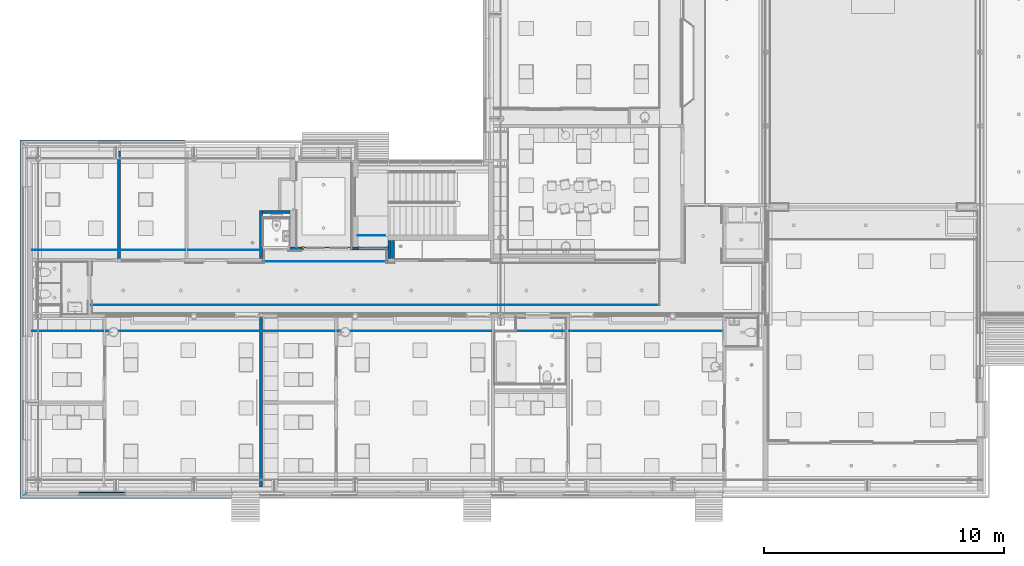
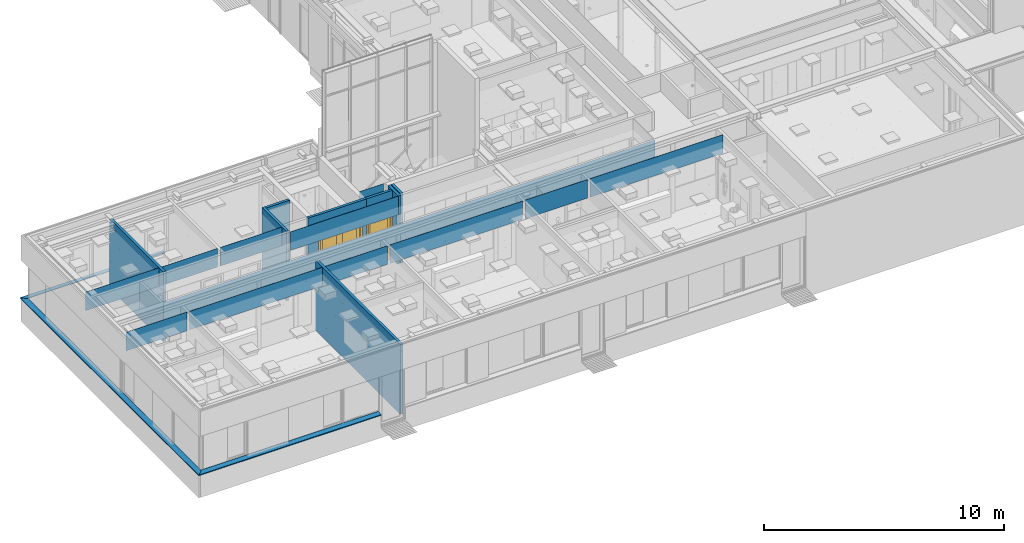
# One storey, part 68 of 347: 16 walls, 2 doors, 2 openings.
"""IFC2X3 building model written with IfcOpenShell, lengths in millimetres."""

from ifc_helpers import new_model, entity, si_unit, converted_unit, derived_unit, money_unit, direction, frame, origin_with_axes, place, context, subcontext, project, spatial, open_shell, faceted_brep, surface_model, material, type_object, element, fill, save


model = new_model("IFC2X3")

# Units and contexts
model_context = context("Model", 3, precision=0.01, world=origin_with_axes(), true_north=direction((0.0, 1.0)))
plan_context = context("Plan", 3, precision=0.01, world=origin_with_axes(), true_north=direction((0.0, 1.0)))
body_context = subcontext(model_context, "Body", "Model", "MODEL_VIEW")
ifc_project = project(units=[si_unit("LENGTHUNIT", "METRE", prefix="MILLI"), si_unit("AREAUNIT", "SQUARE_METRE"), si_unit("VOLUMEUNIT", "CUBIC_METRE"), converted_unit("PLANEANGLEUNIT", "DEGREE", entity("IfcPlaneAngleMeasure", 0.0174532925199), si_unit("PLANEANGLEUNIT", "RADIAN"), dimensions=[0, 0, 0, 0, 0, 0, 0]), money_unit("EUR"), converted_unit("TIMEUNIT", "Year", entity("IfcTimeMeasure", 31556926.0), si_unit("TIMEUNIT", "SECOND"), dimensions=[0, 0, 1, 0, 0, 0, 0]), si_unit("MASSUNIT", "GRAM", prefix="KILO"), si_unit("THERMODYNAMICTEMPERATUREUNIT", "DEGREE_CELSIUS"), si_unit("LUMINOUSINTENSITYUNIT", "LUMEN"), si_unit("ENERGYUNIT", "JOULE", prefix="MEGA"), derived_unit("THERMALCONDUCTANCEUNIT", [(si_unit("POWERUNIT", "WATT"), 1), (si_unit("LENGTHUNIT", "METRE"), -1), (si_unit("THERMODYNAMICTEMPERATUREUNIT", "KELVIN"), -1)]), derived_unit("SPECIFICHEATCAPACITYUNIT", [(si_unit("ENERGYUNIT", "JOULE"), 1), (si_unit("MASSUNIT", "GRAM", prefix="KILO"), -1), (si_unit("THERMODYNAMICTEMPERATUREUNIT", "KELVIN"), -1)]), derived_unit("MASSDENSITYUNIT", [(si_unit("MASSUNIT", "GRAM", prefix="KILO"), 1), (si_unit("VOLUMEUNIT", "CUBIC_METRE"), -1)])], contexts=[model_context, plan_context])

# Site, building, storey
site_placement = place(None, origin_with_axes())
site = spatial("IfcSite", under=ifc_project, at=site_placement, Name="Site", CompositionType="ELEMENT")
building_placement = place(site_placement, origin_with_axes())
building = spatial("IfcBuilding", under=site, at=building_placement, Name="Naam gebouw", CompositionType="ELEMENT")
storey_placement = place(building_placement, origin_with_axes())
storey = spatial("IfcBuildingStorey", under=building, at=storey_placement, Name="begane grond", CompositionType="ELEMENT", Elevation=0.0)

# Walls
ifc_material_1 = material(Name="ALG - LICHTE SCHEIDINGSWAND")
wall_type_1 = type_object("IfcWallType", Name="ALG LSW 125 125", PredefinedType="NOTDEFINED")
wall_1_placement = place(storey_placement, frame((14525.0, 12125.0, 0.0), z_axis=(0.0, 0.0, 1.0), x_axis=(0.0, -1.0, 0.0)))
element("IfcWall", 1, at=wall_1_placement, inside=storey, type_object=wall_type_1, material=ifc_material_1, Name="22_GF 125 ECO DGS/2.75.3A", context=body_context, shape_type="Brep", body=[
    faceted_brep([(62.5, 125.0, 2600.0), (625.00002799, 125.0, 2600.0), (625.00002799, 125.0, 2612.0), (62.5, 125.0, 2612.0), (62.5, 125.0, 3560.0), (7125.00000221, 125.0, 3560.0), (7125.00002799, 125.0, 3212.0), (6525.00002799, 125.0, 3212.0), (6525.00002799, 125.0, 3200.0), (7125.00002799, 125.0, 3200.0), (7125.00000221, 125.0, 0.0), (62.5, 125.0, 0.0), (625.00002799, 0.0, 2600.0), (62.5, 0.0, 2600.0), (625.00002799, 0.0, 2612.0), (62.5, 0.0, 2612.0), (62.5, 0.0, 3560.0), (7125.00000221, 0.0, 3560.0), (7125.00002799, 0.0, 3212.0), (6525.00002799, 0.0, 3212.0), (6525.00002799, 0.0, 3200.0), (7125.00002799, 0.0, 3200.0), (7125.00000221, 0.0, 0.0), (62.5, 0.0, 0.0)], [[[0, 1, 2, 3, 4, 5, 6, 7, 8, 9, 10, 11]], [[12, 1, 0, 13]], [[14, 2, 1, 12]], [[14, 15, 3, 2]], [[4, 3, 15, 16]], [[4, 16, 17, 5]], [[17, 18, 6, 5]], [[19, 7, 6, 18]], [[20, 8, 7, 19]], [[21, 9, 8, 20]], [[10, 9, 21, 22]], [[23, 11, 10, 22]], [[23, 13, 0, 11]], [[14, 12, 13, 23, 22, 21, 20, 19, 18, 17, 16, 15]]]),
])
wall_2_placement = place(storey_placement, frame((8600.0, 19000.0, 0.0), z_axis=(0.0, 0.0, 1.0), x_axis=(0.0, -1.0, 0.0)))
element("IfcWall", 2, at=wall_2_placement, inside=storey, type_object=wall_type_1, material=ifc_material_1, Name="22_GF 125 ECO DGS/2.75.3A", context=body_context, shape_type="Brep", body=[
    faceted_brep([(-2.21049489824e-06, 125.0, 0.0), (0.0, 125.0, 3200.0), (509.999855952, 125.0, 3200.0), (509.999855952, 125.0, 3212.0), (0.0, 125.0, 3212.0), (-2.21049134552e-06, 125.0, 3560.0), (4475.0, 125.0, 3560.0), (4475.0, 125.0, 2612.0), (4109.99990516, 125.0, 2612.0), (4109.99990516, 125.0, 2600.0), (4475.0, 125.0, 2600.0), (4475.0, 125.0, 0.0), (-2.21049489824e-06, 0.0, 0.0), (0.0, 0.0, 3200.0), (509.999855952, 0.0, 3200.0), (509.999855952, 0.0, 3212.0), (0.0, 0.0, 3212.0), (-2.21049134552e-06, 0.0, 3560.0), (4475.0, 0.0, 3560.0), (4475.0, 0.0, 2612.0), (4109.99990516, 0.0, 2612.0), (4109.99990516, 0.0, 2600.0), (4475.0, 0.0, 2600.0), (4475.0, 0.0, 0.0)], [[[0, 1, 2, 3, 4, 5, 6, 7, 8, 9, 10, 11]], [[0, 12, 13, 1]], [[13, 14, 2, 1]], [[14, 15, 3, 2]], [[3, 15, 16, 4]], [[17, 5, 4, 16]], [[17, 18, 6, 5]], [[6, 18, 19, 7]], [[19, 20, 8, 7]], [[20, 21, 9, 8]], [[21, 22, 10, 9]], [[23, 11, 10, 22]], [[0, 11, 23, 12]], [[16, 15, 14, 13, 12, 23, 22, 21, 20, 19, 18, 17]]]),
])

# Wall, opening, door
wall_3_placement = place(storey_placement, frame((19865.0, 14890.0, 0.0), z_axis=(0.0, 0.0, 1.0), x_axis=(-1.0, 0.0, 0.0)))
wall_3 = element("IfcWall", 3, at=wall_3_placement, inside=storey, type_object=wall_type_1, material=ifc_material_1, Name="22_GF 125 ECO DGS/2.75.3A", context=body_context, shape_type="Brep", body=[
    faceted_brep([(0.0, 0.0, 2600.0), (0.0, -125.0, 2600.0), (0.0, -125.0, 3560.0), (0.0, 0.0, 3560.0), (1250.0, -125.0, 2600.0), (1250.0, 0.0, 2600.0), (1250.0, -125.0, 3560.0), (1250.0, 0.0, 3560.0)], [[[0, 1, 2, 3]], [[4, 1, 0, 5]], [[1, 4, 6, 2]], [[2, 6, 7, 3]], [[5, 0, 3, 7]], [[4, 5, 7, 6]]]),
])
opening_1_placement = place(wall_3_placement, frame((625.0, 0.0, 0.0), z_axis=(0.0, 0.0, 1.0), x_axis=(1.0, 0.0, 0.0)))
opening_1 = element("IfcOpeningElement", 4, at=opening_1_placement, cuts=wall_3, Name="32_03.01", context=body_context, shape_type="Brep", body=[
    faceted_brep([(625.0, -257.0, 2600.0), (625.0, -257.0, 0.0), (625.0, 125.0, 0.0), (625.0, 125.0, 2600.0), (-625.0, -257.0, 2600.0), (-625.0, -257.0, 0.0), (-625.0, 125.0, 0.0), (-625.0, 125.0, 2600.0)], [[[0, 1, 2, 3]], [[0, 4, 5, 1]], [[1, 5, 6, 2]], [[3, 2, 6, 7]], [[4, 0, 3, 7]], [[5, 4, 7, 6]]]),
])
door_style_1 = type_object("IfcDoorStyle", Name="D1 25", ConstructionType="NOTDEFINED", OperationType="SINGLE_SWING_LEFT", ParameterTakesPrecedence=False, Sizeable=False)
door_1_placement = place(opening_1_placement, frame((625.0, 0.0, 0.0), z_axis=(0.0, 0.0, 1.0), x_axis=(-1.0, 0.0, 0.0)))
door_1 = element("IfcDoor", 5, at=door_1_placement, inside=storey, type_object=door_style_1, Name="32_03.01", ObjectType="DOOR", OverallHeight=2600.0, OverallWidth=1250.0, context=body_context, shape_type="SurfaceModel", body=[
    faceted_brep([(1160.0, 72.0, 0.0), (1160.0, -7.0, 0.0), (1160.0, -7.0, 2510.0), (1160.0, 72.0, 2510.0), (1185.0, 72.0, 0.0), (1185.0, 132.0, 0.0), (1250.0, 132.0, 0.0), (1250.0, -7.0, 0.0), (1250.0, -7.0, 2510.0), (1185.0, 72.0, 2510.0), (1250.0, 132.0, 2510.0), (1185.0, 132.0, 2510.0)], [[[0, 1, 2, 3]], [[4, 5, 6, 7, 1, 0]], [[1, 7, 8, 2]], [[9, 3, 2, 8, 10, 11]], [[9, 4, 0, 3]], [[11, 5, 4, 9]], [[11, 10, 6, 5]], [[6, 10, 8, 7]]]),
    faceted_brep([(65.0, 72.0, 2510.0), (65.0, 132.0, 2510.0), (0.0, 132.0, 2510.0), (0.0, -7.0, 2510.0), (90.0, -7.0, 2510.0), (90.0, 72.0, 2510.0), (65.0, 72.0, 0.0), (65.0, 132.0, 0.0), (0.0, 132.0, 0.0), (0.0, -7.0, 0.0), (90.0, -7.0, 0.0), (90.0, 72.0, 0.0)], [[[0, 1, 2, 3, 4, 5]], [[0, 6, 7, 1]], [[7, 8, 2, 1]], [[2, 8, 9, 3]], [[3, 9, 10, 4]], [[5, 4, 10, 11]], [[5, 11, 6, 0]], [[6, 11, 10, 9, 8, 7]]]),
    faceted_brep([(1185.0, 132.0, 2535.0), (65.0, 132.0, 2535.0), (65.0, 132.0, 2510.0), (0.0, 132.0, 2510.0), (0.0, 132.0, 2600.0), (1250.0, 132.0, 2600.0), (1250.0, 132.0, 2510.0), (1185.0, 132.0, 2510.0), (1185.0, 72.0, 2535.0), (65.0, 72.0, 2535.0), (65.0, 72.0, 2510.0), (90.0, 72.0, 2510.0), (90.0, -7.0, 2510.0), (0.0, -7.0, 2510.0), (0.0, -7.0, 2600.0), (1250.0, -7.0, 2600.0), (1250.0, -7.0, 2510.0), (1185.0, 72.0, 2510.0), (1160.0, -7.0, 2510.0), (1160.0, 72.0, 2510.0)], [[[0, 1, 2, 3, 4, 5, 6, 7]], [[0, 8, 9, 1]], [[1, 9, 10, 2]], [[10, 11, 12, 13, 3, 2]], [[4, 3, 13, 14]], [[5, 4, 14, 15]], [[6, 5, 15, 16]], [[17, 7, 6, 16, 18, 19]], [[7, 17, 8, 0]], [[10, 9, 8, 17, 19, 11]], [[19, 18, 12, 11]], [[12, 18, 16, 15, 14, 13]]]),
    faceted_brep([(65.0, 126.0, 400.0), (205.0, 126.0, 400.0), (205.0, 72.0, 400.0), (65.0, 72.0, 400.0), (65.0, 126.0, 2395.0), (205.0, 126.0, 2395.0), (205.0, 72.0, 2395.0), (65.0, 72.0, 2395.0)], [[[0, 1, 2, 3]], [[0, 4, 5, 1]], [[1, 5, 6, 2]], [[3, 2, 6, 7]], [[4, 0, 3, 7]], [[5, 4, 7, 6]]]),
    faceted_brep([(1185.0, 126.0, 400.0), (1185.0, 126.0, 2395.0), (1185.0, 72.0, 2395.0), (1185.0, 72.0, 400.0), (1045.0, 126.0, 400.0), (1045.0, 126.0, 2395.0), (1045.0, 72.0, 2395.0), (1045.0, 72.0, 400.0)], [[[0, 1, 2, 3]], [[0, 4, 5, 1]], [[1, 5, 6, 2]], [[3, 2, 6, 7]], [[4, 0, 3, 7]], [[5, 4, 7, 6]]]),
    faceted_brep([(65.0, 126.0, 0.0), (1185.0, 126.0, 0.0), (1185.0, 72.0, 0.0), (65.0, 72.0, 0.0), (65.0, 126.0, 400.0), (205.0, 126.0, 400.0), (1045.0, 126.0, 400.0), (1185.0, 126.0, 400.0), (1185.0, 72.0, 400.0), (1045.0, 72.0, 400.0), (205.0, 72.0, 400.0), (65.0, 72.0, 400.0)], [[[0, 1, 2, 3]], [[0, 4, 5, 6, 7, 1]], [[1, 7, 8, 2]], [[3, 2, 8, 9, 10, 11]], [[4, 0, 3, 11]], [[5, 4, 11, 10]], [[6, 5, 10, 9]], [[7, 6, 9, 8]]]),
    faceted_brep([(65.0, 126.0, 2535.0), (65.0, 126.0, 2395.0), (65.0, 72.0, 2395.0), (65.0, 72.0, 2535.0), (1185.0, 126.0, 2535.0), (1185.0, 126.0, 2395.0), (1045.0, 126.0, 2395.0), (205.0, 126.0, 2395.0), (205.0, 72.0, 2395.0), (1045.0, 72.0, 2395.0), (1185.0, 72.0, 2395.0), (1185.0, 72.0, 2535.0)], [[[0, 1, 2, 3]], [[0, 4, 5, 6, 7, 1]], [[1, 7, 8, 2]], [[3, 2, 8, 9, 10, 11]], [[4, 0, 3, 11]], [[5, 4, 11, 10]], [[6, 5, 10, 9]], [[7, 6, 9, 8]]]),
    surface_model("IfcShellBasedSurfaceModel", [(205.0, 105.0, 400.0), (205.0, 105.0, 2395.0), (1045.0, 105.0, 2395.0), (1045.0, 105.0, 400.0)], [open_shell([[[0, 1, 2, 3]]])]),
    surface_model("IfcShellBasedSurfaceModel", [(205.0, 93.0, 400.0), (1045.0, 93.0, 400.0), (1045.0, 93.0, 2395.0), (205.0, 93.0, 2395.0)], [open_shell([[[0, 1, 2, 3]]])]),
])
fill(opening_1, door_1)

# Walls
wall_4_placement = place(storey_placement, frame((14650.0, 16415.0, 0.0), z_axis=(0.0, 0.0, 1.0), x_axis=(0.0, -1.0, 0.0)))
element("IfcWall", 6, at=wall_4_placement, inside=storey, type_object=wall_type_1, material=ifc_material_1, Name="22_GF 125 ECO DGS/2.75.4A", context=body_context, shape_type="Brep", body=[
    faceted_brep([(1524.99990516, 0.0, 2612.0), (1524.99990516, 0.0, 2600.0), (1890.0, 0.0, 2600.0), (1890.0, 0.0, 0.0), (-125.0, 0.0, 0.0), (-125.0, 0.0, 3560.0), (1890.0, 0.0, 3560.0), (1890.0, 0.0, 2612.0), (1524.99990516, -125.0, 2600.0), (1524.99990516, -125.0, 2612.0), (1890.0, -125.0, 2600.0), (1890.0, -125.0, 0.0), (-125.0, -125.0, 0.0), (-125.0, -125.0, 3560.0), (1890.0, -125.0, 3560.0), (1890.0, -125.0, 2612.0)], [[[0, 1, 2, 3, 4, 5, 6, 7]], [[8, 1, 0, 9]], [[10, 2, 1, 8]], [[3, 2, 10, 11]], [[12, 4, 3, 11]], [[4, 12, 13, 5]], [[5, 13, 14, 6]], [[14, 15, 7, 6]], [[9, 0, 7, 15]], [[8, 9, 15, 14, 13, 12, 11, 10]]]),
])
wall_5_placement = place(storey_placement, frame((15795.0, 16415.0, 0.0), z_axis=(0.0, 0.0, 1.0), x_axis=(-1.0, 0.0, 0.0)))
element("IfcWall", 7, at=wall_5_placement, inside=storey, type_object=wall_type_1, material=ifc_material_1, Name="22_GF 125 ECO DGS/2.75.4A", context=body_context, shape_type="Brep", body=[
    faceted_brep([(1145.0, 0.0, 0.0), (1145.0, -125.0, 0.0), (0.0, -125.0, 0.0), (0.0, 0.0, 0.0), (1145.0, 0.0, 3560.0), (1145.0, -125.0, 3560.0), (0.0, -125.0, 3560.0), (0.0, 0.0, 3560.0)], [[[0, 1, 2, 3]], [[1, 0, 4, 5]], [[1, 5, 6, 2]], [[7, 3, 2, 6]], [[4, 0, 3, 7]], [[5, 4, 7, 6]]]),
])
wall_6_placement = place(storey_placement, frame((19865.0, 14400.0, 0.0), z_axis=(0.0, 0.0, 1.0), x_axis=(0.0, 1.0, 0.0)))
element("IfcWall", 8, at=wall_6_placement, inside=storey, type_object=wall_type_1, material=ifc_material_1, Name="22_GF 125 ECO DGS/2.75.2A", context=body_context, shape_type="Brep", body=[
    faceted_brep([(890.0, 0.0, 0.0), (890.0, 0.0, 2600.0), (890.0, -40.0, 2600.0), (890.0, -40.0, 2612.0), (890.0, 0.0, 2612.0), (890.0, 0.0, 3560.0), (890.0, -125.0, 3560.0), (890.0, -125.0, 0.0), (615.0, 0.0, 2612.0), (615.0, 0.0, 2600.0), (125.0, 0.0, 0.0), (125.0, 0.0, 2600.0), (490.000094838, 0.0, 2600.0), (490.000094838, 0.0, 2612.0), (0.0, 0.0, 2612.0), (0.0, 0.0, 3560.0), (615.0, -40.0, 2600.0), (615.0, -40.0, 2612.0), (0.0, -125.0, 3560.0), (125.0, -125.0, 0.0), (0.0, -125.0, 2600.0), (125.0, -125.0, 2600.0), (125.0, -40.0, 2600.0), (490.000094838, -40.0, 2600.0), (490.000094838, -40.0, 2612.0), (0.0, -40.0, 2612.0), (0.0, -40.0, 2600.0)], [[[0, 1, 2, 3, 4, 5, 6, 7]], [[8, 9, 1, 0, 10, 11, 12, 13, 14, 15, 5, 4]], [[16, 2, 1, 9]], [[17, 3, 2, 16]], [[8, 4, 3, 17]], [[15, 18, 6, 5]], [[19, 7, 6, 18, 20, 21]], [[19, 10, 0, 7]], [[16, 9, 8, 17]], [[21, 22, 11, 10, 19]], [[12, 11, 22, 23]], [[24, 13, 12, 23]], [[24, 25, 14, 13]], [[14, 25, 26, 20, 18, 15]], [[20, 26, 22, 21]], [[23, 22, 26, 25, 24]]]),
])

# Wall, opening, door
wall_7_placement = place(storey_placement, frame((18615.0, 14890.0, 0.0), z_axis=(0.0, 0.0, 1.0), x_axis=(-1.0, 0.0, 0.0)))
wall_7 = element("IfcWall", 9, at=wall_7_placement, inside=storey, type_object=wall_type_1, material=ifc_material_1, Name="22_GF 125 ECO DGS/2.75.3A", context=body_context, shape_type="Brep", body=[
    faceted_brep([(2329.99994747, -125.0, 2600.0), (2329.99994747, -125.0, 0.0), (2820.0, -125.0, 0.0), (2820.0, -125.0, 3560.0), (0.0, -125.0, 3560.0), (0.0, -125.0, 0.0), (210.0, -125.0, 0.0), (210.0, -125.0, 2600.0), (2329.99994747, 0.0, 2600.0), (2329.99994747, 0.0, 0.0), (2820.0, 0.0, 0.0), (2820.0, 0.0, 3560.0), (0.0, 0.0, 3560.0), (0.0, 0.0, 0.0), (210.0, 0.0, 0.0), (210.0, 0.0, 2600.0)], [[[0, 1, 2, 3, 4, 5, 6, 7]], [[1, 0, 8, 9]], [[1, 9, 10, 2]], [[2, 10, 11, 3]], [[4, 3, 11, 12]], [[12, 13, 5, 4]], [[14, 6, 5, 13]], [[7, 6, 14, 15]], [[0, 7, 15, 8]], [[15, 14, 13, 12, 11, 10, 9, 8]]]),
])
opening_2_placement = place(wall_7_placement, frame((1269.99997374, 0.0, 0.0), z_axis=(0.0, 0.0, 1.0), x_axis=(1.0, 0.0, 0.0)))
opening_2 = element("IfcOpeningElement", 10, at=opening_2_placement, cuts=wall_7, Name="32_05.02", context=body_context, shape_type="Brep", body=[
    faceted_brep([(-1059.99997374, -125.0, 0.0), (-1059.99997374, -125.0, 2600.0), (-1059.99997374, 257.0, 2600.0), (-1059.99997374, 257.0, 0.0), (1059.99997374, -125.0, 0.0), (1059.99997374, -125.0, 2600.0), (1059.99997374, 257.0, 2600.0), (1059.99997374, 257.0, 0.0)], [[[0, 1, 2, 3]], [[0, 4, 5, 1]], [[1, 5, 6, 2]], [[3, 2, 6, 7]], [[4, 0, 3, 7]], [[5, 4, 7, 6]]]),
])
door_style_2 = type_object("IfcDoorStyle", Name="D2 25", ConstructionType="NOTDEFINED", OperationType="DOUBLE_DOOR_SINGLE_SWING", ParameterTakesPrecedence=False, Sizeable=False)
door_2_placement = place(opening_2_placement, frame((1059.99997374, 0.0, 0.0), z_axis=(0.0, 0.0, 1.0), x_axis=(-1.0, 0.0, 0.0)))
door_2 = element("IfcDoor", 11, at=door_2_placement, inside=storey, type_object=door_style_2, Name="32_05.02", ObjectType="DOOR", OverallHeight=2600.0, OverallWidth=2120.0, context=body_context, shape_type="SurfaceModel", body=[
    faceted_brep([(0.0, 132.0, 0.0), (90.0, 132.0, 0.0), (90.0, -7.0, 0.0), (0.0, -7.0, 0.0), (0.0, 132.0, 2510.0), (90.0, 132.0, 2510.0), (90.0, -7.0, 2510.0), (0.0, -7.0, 2510.0)], [[[0, 1, 2, 3]], [[0, 4, 5, 1]], [[1, 5, 6, 2]], [[3, 2, 6, 7]], [[4, 0, 3, 7]], [[5, 4, 7, 6]]]),
    faceted_brep([(2119.99994747, 132.0, 0.0), (2119.99994747, 132.0, 2510.0), (2119.99994747, -7.0, 2510.0), (2119.99994747, -7.0, 0.0), (2029.99994747, 132.0, 0.0), (2029.99994747, 132.0, 2510.0), (2029.99994747, -7.0, 2510.0), (2029.99994747, -7.0, 0.0)], [[[0, 1, 2, 3]], [[0, 4, 5, 1]], [[1, 5, 6, 2]], [[3, 2, 6, 7]], [[4, 0, 3, 7]], [[5, 4, 7, 6]]]),
    faceted_brep([(0.0, 132.0, 2600.0), (0.0, 132.0, 2510.0), (0.0, -7.0, 2510.0), (0.0, -7.0, 2600.0), (2119.99994747, 132.0, 2600.0), (2119.99994747, 132.0, 2510.0), (2029.99994747, 132.0, 2510.0), (90.0, 132.0, 2510.0), (90.0, -7.0, 2510.0), (2029.99994747, -7.0, 2510.0), (2119.99994747, -7.0, 2510.0), (2119.99994747, -7.0, 2600.0)], [[[0, 1, 2, 3]], [[0, 4, 5, 6, 7, 1]], [[1, 7, 8, 2]], [[3, 2, 8, 9, 10, 11]], [[4, 0, 3, 11]], [[5, 4, 11, 10]], [[6, 5, 10, 9]], [[7, 6, 9, 8]]]),
    faceted_brep([(2029.99994747, 126.0, 400.0), (2029.99994747, 72.0, 400.0), (1889.99994747, 72.0, 400.0), (1889.99994747, 126.0, 400.0), (2029.99994747, 126.0, 2370.0), (2029.99994747, 72.0, 2370.0), (1889.99994747, 72.0, 2370.0), (1889.99994747, 126.0, 2370.0)], [[[0, 1, 2, 3]], [[4, 5, 1, 0]], [[1, 5, 6, 2]], [[3, 2, 6, 7]], [[0, 3, 7, 4]], [[7, 6, 5, 4]]]),
    faceted_brep([(1059.99997374, 126.0, 400.0), (1059.99997374, 72.0, 400.0), (1059.99997374, 72.0, 2370.0), (1059.99997374, 126.0, 2370.0), (1199.99997374, 126.0, 400.0), (1199.99997374, 72.0, 400.0), (1199.99997374, 72.0, 2370.0), (1199.99997374, 126.0, 2370.0)], [[[0, 1, 2, 3]], [[4, 5, 1, 0]], [[1, 5, 6, 2]], [[3, 2, 6, 7]], [[0, 3, 7, 4]], [[7, 6, 5, 4]]]),
    faceted_brep([(2029.99994747, 126.0, 0.0), (2029.99994747, 72.0, 0.0), (1059.99997374, 72.0, 0.0), (1059.99997374, 126.0, 0.0), (2029.99994747, 126.0, 400.0), (2029.99994747, 72.0, 400.0), (1889.99994747, 72.0, 400.0), (1199.99997374, 72.0, 400.0), (1059.99997374, 72.0, 400.0), (1059.99997374, 126.0, 400.0), (1199.99997374, 126.0, 400.0), (1889.99994747, 126.0, 400.0)], [[[0, 1, 2, 3]], [[4, 5, 1, 0]], [[1, 5, 6, 7, 8, 2]], [[3, 2, 8, 9]], [[0, 3, 9, 10, 11, 4]], [[11, 6, 5, 4]], [[10, 7, 6, 11]], [[9, 8, 7, 10]]]),
    faceted_brep([(2029.99994747, 126.0, 2510.0), (2029.99994747, 72.0, 2510.0), (2029.99994747, 72.0, 2370.0), (2029.99994747, 126.0, 2370.0), (1059.99997374, 126.0, 2510.0), (1059.99997374, 72.0, 2510.0), (1059.99997374, 72.0, 2370.0), (1199.99997374, 72.0, 2370.0), (1889.99994747, 72.0, 2370.0), (1889.99994747, 126.0, 2370.0), (1199.99997374, 126.0, 2370.0), (1059.99997374, 126.0, 2370.0)], [[[0, 1, 2, 3]], [[4, 5, 1, 0]], [[1, 5, 6, 7, 8, 2]], [[3, 2, 8, 9]], [[0, 3, 9, 10, 11, 4]], [[11, 6, 5, 4]], [[10, 7, 6, 11]], [[9, 8, 7, 10]]]),
    surface_model("IfcShellBasedSurfaceModel", [(1889.99994747, 105.0, 400.0), (1199.99997374, 105.0, 400.0), (1199.99997374, 105.0, 2370.0), (1889.99994747, 105.0, 2370.0)], [open_shell([[[0, 1, 2, 3]]])]),
    surface_model("IfcShellBasedSurfaceModel", [(1889.99994747, 93.0, 400.0), (1889.99994747, 93.0, 2370.0), (1199.99997374, 93.0, 2370.0), (1199.99997374, 93.0, 400.0)], [open_shell([[[0, 1, 2, 3]]])]),
    faceted_brep([(90.0, 126.0, 400.0), (230.0, 126.0, 400.0), (230.0, 72.0, 400.0), (90.0, 72.0, 400.0), (90.0, 126.0, 2370.0), (230.0, 126.0, 2370.0), (230.0, 72.0, 2370.0), (90.0, 72.0, 2370.0)], [[[0, 1, 2, 3]], [[0, 4, 5, 1]], [[1, 5, 6, 2]], [[3, 2, 6, 7]], [[4, 0, 3, 7]], [[5, 4, 7, 6]]]),
    faceted_brep([(1059.99997374, 126.0, 400.0), (1059.99997374, 126.0, 2370.0), (1059.99997374, 72.0, 2370.0), (1059.99997374, 72.0, 400.0), (919.999973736, 126.0, 400.0), (919.999973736, 126.0, 2370.0), (919.999973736, 72.0, 2370.0), (919.999973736, 72.0, 400.0)], [[[0, 1, 2, 3]], [[0, 4, 5, 1]], [[1, 5, 6, 2]], [[3, 2, 6, 7]], [[4, 0, 3, 7]], [[5, 4, 7, 6]]]),
    faceted_brep([(90.0, 126.0, 0.0), (1059.99997374, 126.0, 0.0), (1059.99997374, 72.0, 0.0), (90.0, 72.0, 0.0), (90.0, 126.0, 400.0), (230.0, 126.0, 400.0), (919.999973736, 126.0, 400.0), (1059.99997374, 126.0, 400.0), (1059.99997374, 72.0, 400.0), (919.999973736, 72.0, 400.0), (230.0, 72.0, 400.0), (90.0, 72.0, 400.0)], [[[0, 1, 2, 3]], [[0, 4, 5, 6, 7, 1]], [[1, 7, 8, 2]], [[3, 2, 8, 9, 10, 11]], [[4, 0, 3, 11]], [[5, 4, 11, 10]], [[6, 5, 10, 9]], [[7, 6, 9, 8]]]),
    faceted_brep([(90.0, 126.0, 2510.0), (90.0, 126.0, 2370.0), (90.0, 72.0, 2370.0), (90.0, 72.0, 2510.0), (1059.99997374, 126.0, 2510.0), (1059.99997374, 126.0, 2370.0), (919.999973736, 126.0, 2370.0), (230.0, 126.0, 2370.0), (230.0, 72.0, 2370.0), (919.999973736, 72.0, 2370.0), (1059.99997374, 72.0, 2370.0), (1059.99997374, 72.0, 2510.0)], [[[0, 1, 2, 3]], [[0, 4, 5, 6, 7, 1]], [[1, 7, 8, 2]], [[3, 2, 8, 9, 10, 11]], [[4, 0, 3, 11]], [[5, 4, 11, 10]], [[6, 5, 10, 9]], [[7, 6, 9, 8]]]),
    surface_model("IfcShellBasedSurfaceModel", [(230.0, 105.0, 400.0), (230.0, 105.0, 2370.0), (919.999973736, 105.0, 2370.0), (919.999973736, 105.0, 400.0)], [open_shell([[[0, 1, 2, 3]]])]),
    surface_model("IfcShellBasedSurfaceModel", [(230.0, 93.0, 400.0), (919.999973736, 93.0, 400.0), (919.999973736, 93.0, 2370.0), (230.0, 93.0, 2370.0)], [open_shell([[[0, 1, 2, 3]]])]),
])
fill(opening_2, door_2)

# Walls
wall_8_placement = place(storey_placement, frame((20150.0, 14400.0, 0.0), z_axis=(0.0, 0.0, 1.0), x_axis=(0.0, 1.0, 0.0)))
element("IfcWall", 12, at=wall_8_placement, inside=storey, type_object=wall_type_1, material=ifc_material_1, Name="22_GF 125 ECO DGS/2.75.2A", context=body_context, shape_type="Brep", body=[
    faceted_brep([(890.0, 125.0, 0.0), (890.0, 0.0, 0.0), (125.0, 0.0, 0.0), (125.0, 125.0, 0.0), (890.0, 125.0, 3560.0), (890.0, 0.0, 3560.0), (125.0, 0.0, 3560.0), (125.0, 125.0, 3560.0)], [[[0, 1, 2, 3]], [[1, 0, 4, 5]], [[1, 5, 6, 2]], [[7, 3, 2, 6]], [[4, 0, 3, 7]], [[5, 4, 7, 6]]]),
])
wall_type_2 = type_object("IfcWallType", Name="44 koof 50", PredefinedType="NOTDEFINED")
wall_9_placement = place(storey_placement, frame((7500.0, 12600.0, 2600.0), z_axis=(0.0, 0.0, 1.0), x_axis=(1.0, 0.0, 0.0)))
element("IfcWall", 13, at=wall_9_placement, inside=storey, type_object=wall_type_2, material=ifc_material_1, Name="21_23 betonwand", context=body_context, shape_type="Brep", body=[
    faceted_brep([(23687.0, -12.0, 960.0), (23687.0, -12.0, 12.0), (23687.0, 0.0, 12.0), (23687.0, 0.0, 960.0), (0.0, -12.0, 960.0), (0.000136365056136, -12.0, 12.0), (0.000136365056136, 0.0, 12.0), (0.0, 0.0, 960.0)], [[[0, 1, 2, 3]], [[4, 5, 1, 0]], [[6, 2, 1, 5]], [[2, 6, 7, 3]], [[4, 0, 3, 7]], [[7, 6, 5, 4]]]),
])
wall_10_placement = place(storey_placement, frame((33825.0, 11499.999972, 2600.0), z_axis=(0.0, 0.0, 1.0), x_axis=(-1.0, 0.0, 0.0)))
element("IfcWall", 14, at=wall_10_placement, inside=storey, type_object=wall_type_2, material=ifc_material_1, Name="21_23 betonwand", context=body_context, shape_type="Brep", body=[
    faceted_brep([(0.0, 0.0, 960.0), (0.0, 0.0, 12.0), (0.0, -12.0, 12.0), (0.0, -12.0, 960.0), (6400.0, 0.0, 960.0), (6400.0, 0.0, 12.0), (6400.0, -12.0, 12.0), (6400.0, -12.0, 960.0)], [[[0, 1, 2, 3]], [[4, 5, 1, 0]], [[5, 6, 2, 1]], [[3, 2, 6, 7]], [[3, 7, 4, 0]], [[7, 6, 5, 4]]]),
    faceted_brep([(6525.0, 0.0, 960.0), (6525.0, 0.0, 12.0), (6525.0, -12.0, 12.0), (6525.0, -12.0, 960.0), (8625.0, 0.0, 0.0), (8625.0, 0.0, 12.0), (9525.0, 0.0, 960.0), (9525.0, 0.0, -8.37175662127e-06), (8625.0, -12.0, 12.0), (8625.0, -12.0, 0.0), (9525.0, -12.0, -8.37175662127e-06), (9525.0, -12.0, 960.0)], [[[0, 1, 2, 3]], [[4, 5, 1, 0, 6, 7]], [[5, 8, 2, 1]], [[2, 8, 9, 10, 11, 3]], [[3, 11, 6, 0]], [[4, 9, 8, 5]], [[7, 6, 11, 10]], [[10, 9, 4, 7]]]),
    faceted_brep([(9650.0, 0.0, 960.0), (9650.0, 0.0, 12.0), (9650.0, -12.0, 12.0), (9650.0, -12.0, 960.0), (16050.0, 0.0, 960.0), (16050.0, 0.0, 12.0), (16050.0, -12.0, 12.0), (16050.0, -12.0, 960.0)], [[[0, 1, 2, 3]], [[4, 5, 1, 0]], [[5, 6, 2, 1]], [[3, 2, 6, 7]], [[3, 7, 4, 0]], [[7, 6, 5, 4]]]),
    faceted_brep([(16175.0, 0.0, 960.0), (16175.0, 0.0, 12.0), (16175.0, -12.0, 12.0), (16175.0, -12.0, 960.0), (19175.0, 0.0, 960.0), (19175.0, 0.0, 12.0), (19175.0, -12.0, 12.0), (19175.0, -12.0, 960.0)], [[[0, 1, 2, 3]], [[4, 5, 1, 0]], [[5, 6, 2, 1]], [[3, 2, 6, 7]], [[3, 7, 4, 0]], [[7, 6, 5, 4]]]),
    faceted_brep([(19300.0, 0.0, 960.0), (19300.0, 0.0, 12.0), (19300.0, -12.0, 12.0), (19300.0, -12.0, 960.0), (25700.0, 0.0, 960.0), (25700.0, 0.0, 12.0), (25700.0, -12.0, 12.0), (25700.0, -12.0, 960.0)], [[[0, 1, 2, 3]], [[4, 5, 1, 0]], [[5, 6, 2, 1]], [[3, 2, 6, 7]], [[3, 7, 4, 0]], [[7, 6, 5, 4]]]),
    faceted_brep([(25825.0, 0.0, 960.0), (25825.0, 0.0, 12.0), (25825.0, -12.0, 12.0), (25825.0, -12.0, 960.0), (28765.0, 0.0, 960.0), (28765.0, 0.0, 12.0), (28765.0, -12.0, 12.0), (28765.0, -12.0, 960.0)], [[[0, 1, 2, 3]], [[4, 5, 1, 0]], [[5, 6, 2, 1]], [[3, 2, 6, 7]], [[3, 7, 4, 0]], [[7, 6, 5, 4]]]),
])
wall_11_placement = place(storey_placement, frame((4999.9999271, 14890.0000948, 2600.0), z_axis=(0.0, 0.0, 1.0), x_axis=(1.0, 5.16633944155e-09, 0.0)))
element("IfcWall", 15, at=wall_11_placement, inside=storey, type_object=wall_type_2, material=ifc_material_1, Name="21_22 betonwand", context=body_context, shape_type="Brep", body=[
    faceted_brep([(9525.00007284, -12.0000492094, 960.0), (9525.00007284, -12.0000492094, 12.0), (9525.0000729, -4.92093832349e-05, 12.0), (9525.0000729, -0.000143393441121, 960.0), (6550.00007283, -12.0000338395, 960.0), (6550.00007283, -12.0000338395, 12.0), (6550.0000729, -3.38395231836e-05, 12.0), (6550.0000729, -0.000100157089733, 960.0)], [[[0, 1, 2, 3]], [[4, 5, 1, 0]], [[5, 6, 2, 1]], [[3, 2, 6, 7]], [[7, 4, 0, 3]], [[7, 6, 5, 4]]]),
    faceted_brep([(6425.00007283, -12.0000331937, 960.0), (6425.00007283, -12.0000331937, 12.0), (6425.0000729, -3.3193730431e-05, 12.0), (6425.0000729, -9.83404362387e-05, 960.0), (3725.00007283, -12.0000192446, 960.0), (3725.00007283, -12.0000192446, 12.0), (3725.0000729, -1.92446147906e-05, 12.0), (3725.0000729, -5.91007225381e-05, 960.0)], [[[0, 1, 2, 3]], [[4, 5, 1, 0]], [[5, 6, 2, 1]], [[3, 2, 6, 7]], [[0, 3, 7, 4]], [[7, 6, 5, 4]]]),
    faceted_brep([(3600.00007283, -12.0000185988, 960.0), (3600.00007283, -12.0000185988, 12.0), (3600.0000729, -1.8598822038e-05, 12.0), (3600.0000729, -5.72840690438e-05, 960.0), (60.000072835, -12.00000031, 960.0), (60.000072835, -12.00000031, 12.0), (60.000072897, -3.09979597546e-07, 12.0), (60.000072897, -5.83644421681e-06, 960.0)], [[[0, 1, 2, 3]], [[4, 5, 1, 0]], [[5, 6, 2, 1]], [[3, 2, 6, 7]], [[0, 3, 7, 4]], [[7, 6, 5, 4]]]),
])
wall_12_placement = place(storey_placement, frame((19905.0, 14400.0, 2600.0), z_axis=(0.0, 0.0, 1.0), x_axis=(-1.0, 0.0, 0.0)))
element("IfcWall", 16, at=wall_12_placement, inside=storey, type_object=wall_type_2, material=ifc_material_1, Name="21_23 betonwand", context=body_context, shape_type="Brep", body=[
    faceted_brep([(40.0, 0.0, 960.0), (40.0, 0.0, 12.0), (40.0, -12.0, 12.0), (40.0, -12.0, 960.0), (5255.0, 0.0, 960.0), (5255.0, 0.0, 12.0), (5255.0, -12.0, 12.0), (5255.0, -12.0, 960.0)], [[[0, 1, 2, 3]], [[4, 5, 1, 0]], [[5, 6, 2, 1]], [[3, 2, 6, 7]], [[0, 3, 7, 4]], [[7, 6, 5, 4]]]),
])
wall_13_placement = place(storey_placement, frame((19905.0, 15500.0, 2600.0), z_axis=(0.0, 0.0, 1.0), x_axis=(-1.0, 0.0, 0.0)))
element("IfcWall", 17, at=wall_13_placement, inside=storey, type_object=wall_type_2, material=ifc_material_1, Name="21_23 betonwand", context=body_context, shape_type="Brep", body=[
    faceted_brep([(140.0, 12.0, 960.0), (140.0, 12.0, 12.0), (140.0, 0.0, 12.0), (140.0, 0.0, 960.0), (1290.0, 12.0, 960.0), (1290.0, 12.0, 12.0), (1290.0, 0.0, 12.0), (1290.0, 0.0, 960.0)], [[[0, 1, 2, 3]], [[4, 5, 1, 0]], [[5, 6, 2, 1]], [[3, 2, 6, 7]], [[7, 4, 0, 3]], [[7, 6, 5, 4]]]),
])
ifc_material_2 = material(Name="Metaal - Aluminium beige")
wall_type_3 = type_object("IfcWallType", Name="32 waterslag (negge 210mm) 252 x 90", PredefinedType="NOTDEFINED")
wall_14_placement = place(storey_placement, frame((4778.0, 19223.0000018, 720.0), z_axis=(0.0, 0.0, 1.0), x_axis=(1.0, 0.0, 0.0)))
element("IfcWall", 18, at=wall_14_placement, inside=storey, type_object=wall_type_3, material=ifc_material_2, Name="21_31 waterslag", context=body_context, shape_type="Brep", body=[
    faceted_brep([(6647.0, -11.9992673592, -15.0003939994), (11.9992694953, -11.9992673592, -15.0003946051), (12.0001248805, -12.0001235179, 10.0000171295), (6647.0, -12.0001235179, 10.0000166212), (6647.0, 237.999900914, -35.0099705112), (-237.999904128, 237.999900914, -35.0099702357), (11.9992694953, -13.9991300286, -15.0003946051), (12.0001248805, -13.9991300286, 10.0000171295), (6647.0, -13.9991300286, 10.0000166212), (6647.0, -13.9991300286, -16.8402038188), (6647.0, 235.999895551, -36.8748605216), (6647.0, 235.999895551, -78.0099675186), (6647.0, 222.999900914, -78.0099675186), (6647.0, 222.999900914, -80.009969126), (6647.0, 237.999900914, -80.009969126), (-237.999904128, 237.999900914, -80.009969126), (-237.999904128, 212.729182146, -35.0099702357), (-10.9872641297, -13.9991300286, -16.8402038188), (-237.999904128, 235.999895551, -36.8748605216), (-237.999904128, 235.999895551, -78.0099675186), (-237.999904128, 222.999900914, -78.0099675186), (-237.999904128, 222.999900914, -80.009969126)], [[[0, 1, 2, 3]], [[4, 5, 1, 0]], [[6, 7, 2, 1]], [[3, 2, 7, 8]], [[0, 3, 8, 9, 10, 11, 12, 13, 14, 4]], [[14, 15, 5, 4]], [[6, 1, 5, 16, 17]], [[7, 6, 17, 9, 8]], [[17, 16, 18, 10, 9]], [[10, 18, 19, 11]], [[11, 19, 20, 12]], [[12, 20, 21, 13]], [[13, 21, 15, 14]], [[16, 5, 15, 21, 20, 19, 18]]]),
])
wall_15_placement = place(storey_placement, frame((4778.0, 4778.0, 720.0), z_axis=(0.0, 0.0, 1.0), x_axis=(0.0, 1.0, 0.0)))
element("IfcWall", 19, at=wall_15_placement, inside=storey, type_object=wall_type_3, material=ifc_material_2, Name="21_31 waterslag", context=body_context, shape_type="Brep", body=[
    faceted_brep([(-10.9872641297, -13.9991300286, -16.8402038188), (14431.0008717, -13.9991300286, -16.8402038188), (14431.0008717, -13.9991300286, 10.0000171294), (12.0001248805, -13.9991300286, 10.0000171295), (11.9992694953, -13.9991300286, -15.0003946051), (-237.999904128, 235.999895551, -36.8748605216), (14680.9998973, 235.999895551, -36.8748605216), (-237.999904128, 212.729182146, -35.0099702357), (14431.0008717, -11.9992694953, -15.0003946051), (14431.0008717, -12.0001248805, 10.0000171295), (14431.0008717, 10.9872641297, -16.8402038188), (12.0001248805, -12.0001235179, 10.0000171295), (11.9992694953, -11.9992673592, -15.0003946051), (-237.999904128, 237.999900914, -35.0099702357), (14667.9999027, 235.999895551, -78.0099675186), (14680.9998973, 235.999895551, -78.0099675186), (-237.999904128, 235.999895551, -78.0099675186), (14680.9998973, 237.999904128, -36.8748605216), (14657.7291839, 237.999904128, -35.0099702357), (-237.999904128, 222.999900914, -78.0099675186), (-237.999904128, 237.999900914, -80.009969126), (-237.999904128, 222.999900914, -80.009969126), (14680.9998973, 237.999904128, -78.0099675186), (14667.9999027, 237.999904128, -78.0099675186), (14667.9999027, 222.999900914, -78.0099675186), (14667.9999027, 237.999904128, -80.009969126), (14667.9999027, 222.999900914, -80.009969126)], [[[0, 1, 2, 3, 4]], [[5, 6, 1, 0, 7]], [[8, 9, 2, 1, 10]], [[3, 2, 9, 11]], [[11, 12, 4, 3]], [[13, 7, 0, 4, 12]], [[14, 15, 6, 5, 16]], [[10, 1, 6, 17, 18]], [[19, 16, 5, 7, 13, 20, 21]], [[11, 9, 8, 12]], [[8, 10, 18, 13, 12]], [[22, 15, 14, 23]], [[17, 6, 15, 22]], [[19, 24, 14, 16]], [[22, 23, 25, 20, 13, 18, 17]], [[20, 25, 26, 21]], [[21, 26, 24, 19]], [[23, 14, 24, 26, 25]]]),
])
wall_16_placement = place(storey_placement, frame((13348.0, 4778.0, 720.0), z_axis=(0.0, 0.0, 1.0), x_axis=(-1.0, 0.0, 0.0)))
element("IfcWall", 20, at=wall_16_placement, inside=storey, type_object=wall_type_3, material=ifc_material_2, Name="21_31 waterslag", context=body_context, shape_type="Brep", body=[
    faceted_brep([(0.0, -13.9991300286, -16.8402038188), (8556.00086997, -13.9991300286, -16.8402038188), (8556.00086997, -13.9991300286, 10.0000171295), (0.0, -13.9991300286, 10.0000166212), (0.0, 235.999895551, -36.8748605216), (8805.99989555, 235.999895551, -36.8748605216), (8556.00086997, -11.9992694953, -15.0003946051), (8556.00086997, -12.0001248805, 10.0000171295), (8556.00086997, 10.9872641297, -16.8402038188), (0.0, -12.0001235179, 10.0000166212), (0.0, 235.999895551, -78.0099675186), (0.0, -11.9992673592, -15.0003939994), (0.0, 237.999900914, -35.0099705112), (0.0, 237.999900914, -80.009969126), (0.0, 222.999900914, -80.009969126), (0.0, 222.999900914, -78.0099675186), (8792.99990091, 235.999895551, -78.0099675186), (8805.99989555, 235.999895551, -78.0099675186), (8805.99989555, 237.999904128, -36.8748605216), (8782.72918215, 237.999904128, -35.0099702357), (8805.99989555, 237.999904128, -78.0099675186), (8792.99990091, 237.999904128, -78.0099675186), (8792.99990091, 237.999904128, -80.009969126), (8792.99990091, 222.999900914, -80.009969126), (8792.99990091, 222.999900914, -78.0099675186)], [[[0, 1, 2, 3]], [[4, 5, 1, 0]], [[6, 7, 2, 1, 8]], [[3, 2, 7, 9]], [[10, 4, 0, 3, 9, 11, 12, 13, 14, 15]], [[16, 17, 5, 4, 10]], [[8, 1, 5, 18, 19]], [[9, 7, 6, 11]], [[6, 8, 19, 12, 11]], [[20, 21, 22, 13, 12, 19, 18]], [[13, 22, 23, 14]], [[14, 23, 24, 15]], [[15, 24, 16, 10]], [[20, 17, 16, 21]], [[18, 5, 17, 20]], [[21, 16, 24, 23, 22]]]),
])

save(model, "model.ifc")
